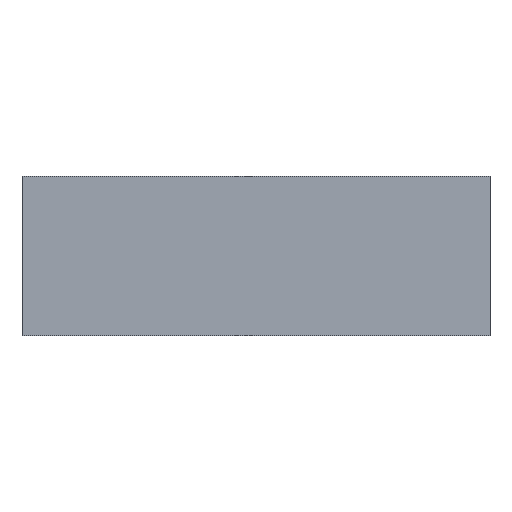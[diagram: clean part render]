
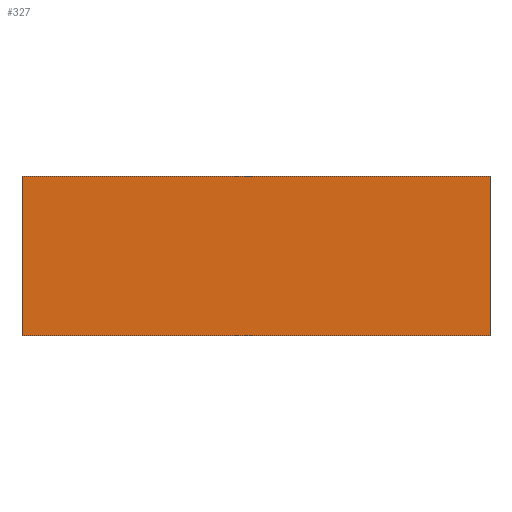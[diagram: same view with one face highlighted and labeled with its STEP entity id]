
A CAD part, front view. The second image highlights one B-rep face of the part: STEP entity #327.
In plain terms, the highlighted planar face has unit normal (0, -1, 0).
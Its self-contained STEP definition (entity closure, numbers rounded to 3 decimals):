
#17 = ORIENTED_EDGE ( 'NONE', *, *, #135, .T. ) ;
#21 = LINE ( 'NONE', #226, #27 ) ;
#27 = VECTOR ( 'NONE', #225, 1000. ) ;
#34 = VECTOR ( 'NONE', #239, 1000. ) ;
#70 = EDGE_LOOP ( 'NONE', ( #17, #72, #75, #76 ) ) ;
#72 = ORIENTED_EDGE ( 'NONE', *, *, #117, .F. ) ;
#75 = ORIENTED_EDGE ( 'NONE', *, *, #103, .F. ) ;
#76 = ORIENTED_EDGE ( 'NONE', *, *, #138, .T. ) ;
#85 = LINE ( 'NONE', #242, #34 ) ;
#103 = EDGE_CURVE ( 'NONE', #247, #249, #85, .T. ) ;
#117 = EDGE_CURVE ( 'NONE', #249, #248, #21, .T. ) ;
#127 = AXIS2_PLACEMENT_3D ( 'NONE', #273, #265, #281 ) ;
#135 = EDGE_CURVE ( 'NONE', #258, #248, #148, .T. ) ;
#138 = EDGE_CURVE ( 'NONE', #247, #258, #152, .T. ) ;
#148 = LINE ( 'NONE', #203, #149 ) ;
#149 = VECTOR ( 'NONE', #202, 1000. ) ;
#152 = LINE ( 'NONE', #198, #153 ) ;
#153 = VECTOR ( 'NONE', #197, 1000. ) ;
#155 = FACE_OUTER_BOUND ( 'NONE', #70, .T. ) ;
#183 = CARTESIAN_POINT ( 'NONE',  ( -176., 0., 0. ) ) ;
#194 = CARTESIAN_POINT ( 'NONE',  ( 176., 0., 120. ) ) ;
#195 = CARTESIAN_POINT ( 'NONE',  ( 176., 0., 0. ) ) ;
#197 = DIRECTION ( 'NONE',  ( 0., 0., -1. ) ) ;
#198 = CARTESIAN_POINT ( 'NONE',  ( -176., 0., 120. ) ) ;
#199 = CARTESIAN_POINT ( 'NONE',  ( -176., 0., 120. ) ) ;
#202 = DIRECTION ( 'NONE',  ( 1., 0., 0. ) ) ;
#203 = CARTESIAN_POINT ( 'NONE',  ( -176., 0., 0. ) ) ;
#225 = DIRECTION ( 'NONE',  ( 0., 0., -1. ) ) ;
#226 = CARTESIAN_POINT ( 'NONE',  ( 176., 0., 120. ) ) ;
#239 = DIRECTION ( 'NONE',  ( 1., 0., 0. ) ) ;
#242 = CARTESIAN_POINT ( 'NONE',  ( -176., 0., 120. ) ) ;
#247 = VERTEX_POINT ( 'NONE', #199 ) ;
#248 = VERTEX_POINT ( 'NONE', #195 ) ;
#249 = VERTEX_POINT ( 'NONE', #194 ) ;
#258 = VERTEX_POINT ( 'NONE', #183 ) ;
#265 = DIRECTION ( 'NONE',  ( 0., 1., 0. ) ) ;
#270 = PLANE ( 'NONE',  #127 ) ;
#273 = CARTESIAN_POINT ( 'NONE',  ( -176., 0., 120. ) ) ;
#281 = DIRECTION ( 'NONE',  ( -1., 0., 0. ) ) ;
#327 = ADVANCED_FACE ( 'NONE', ( #155 ), #270, .F. ) ;
